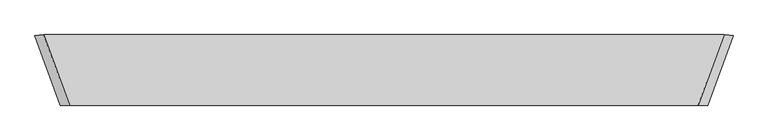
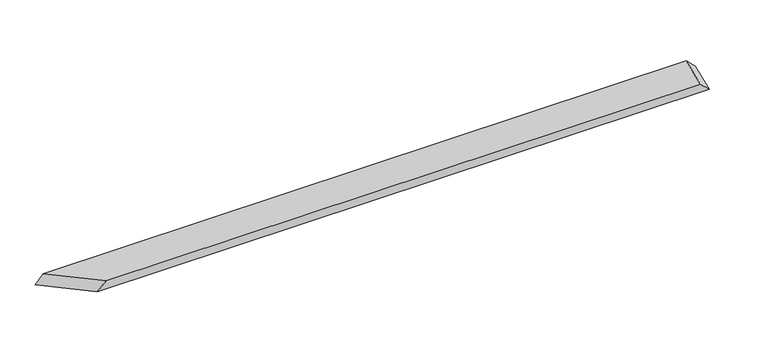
"""IFC4 building model written with IfcOpenShell, lengths in millimetres: proxy geometry, GRADIENT^TABLE 5_PRISM BASE-BACK BOTTOM."""

from ifc_helpers import new_model, si_unit, origin, place, context, project, spatial, faceted_brep, source, transform, mapped, element, save


def generic_models_f1ff75ba(model_context):
    return source(origin(), model_context, "Body", "Brep", [
        faceted_brep([(476.846963, -557.0811135, -843.953037), (457.2, -558.8, -863.6), (512.6690637, -711.2, -808.1309363), (532.9416503, -711.2, -787.8583497), (1925.7309363, -711.2, -808.1309363), (1905.4583497, -711.2, -787.8583497), (1961.553037, -557.0811135, -843.953037), (1981.2, -558.8, -863.6)], [[[0, 1, 2, 3]], [[3, 2, 4, 5]], [[1, 0, 6, 7]], [[0, 3, 5, 6]], [[7, 6, 5, 4]], [[2, 1, 7, 4]]]),
    ])


if __name__ == "__main__":
    model = new_model("IFC4")
    model_context = context("Model", 3, world=origin())
    ifc_project = project(units=[si_unit("LENGTHUNIT", "METRE", prefix="MILLI")], contexts=[model_context])
    site = spatial("IfcSite", under=ifc_project)
    building = spatial("IfcBuilding", under=site)
    placement = place(None, origin())
    generic_models_shape = generic_models_f1ff75ba(model_context)
    element("IfcBuildingElementProxy", 1, Name="GRADIENT^TABLE 5_PRISM BASE-BACK BOTTOM", ObjectType="GRADIENT^TABLE 5_PRISM BASE-BACK BOTTOM", at=placement, inside=building, context=model_context, shape_type="MappedRepresentation", body=[
        mapped(generic_models_shape, transform((0.0, 0.0, 0.0), x_axis=(1.0, 0.0, 0.0), y_axis=(0.0, 1.0, 0.0), z_axis=(0.0, 0.0, 1.0))),
    ])
    save(model, "model.ifc")
